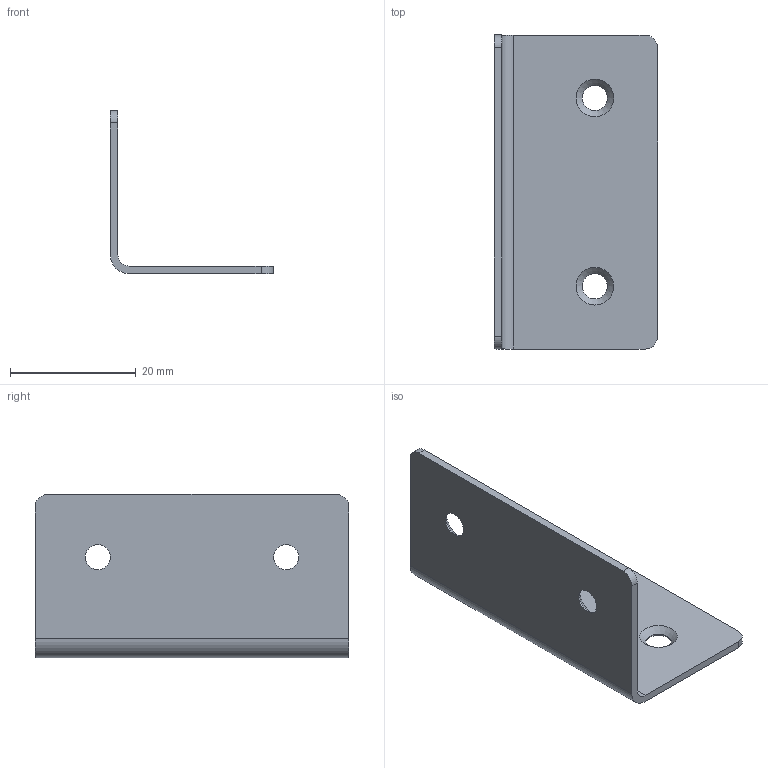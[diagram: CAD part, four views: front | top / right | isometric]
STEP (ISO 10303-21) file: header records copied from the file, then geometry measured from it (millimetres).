
FILE_DESCRIPTION(/* description */ (''),/* implementation_level */ '2;1');
FILE_NAME(/* name */ '\\NAS\db20\S-AGS5026\DR_S-AGS5026.stp',/* time_stamp */ '2017-10-13T08:09:27+09:00',/* author */ ('user'),/* organization */ (''),/* preprocessor_version */ 'ST-DEVELOPER v15.6',/* originating_system */ 'Autodesk Inventor 2015',/* authorisation */ '');
FILE_SCHEMA (('AUTOMOTIVE_DESIGN { 1 0 10303 214 3 1 1 }'));
Length unit declared in the file: millimetre
Products named in the file (1): DR_S-AGS5026
Bounding box: 26 x 50 x 26 mm (x, y, z)
Volume: 2892.4 mm3; surface area: 5141 mm2
Topology: 1 solids, 1 shells, 22 faces, 60 edges, 40 vertices
Faces by surface type: cylinder 10, plane 8, cone 4
Full cylindrical faces by diameter (mm): 4 x4
Entity records: 672 total; most frequent: DIRECTION 118, CARTESIAN_POINT 107, ORIENTED_EDGE 96, EDGE_CURVE 48, AXIS2_PLACEMENT_3D 47, EDGE_LOOP 38, VERTEX_POINT 36, LINE 24
